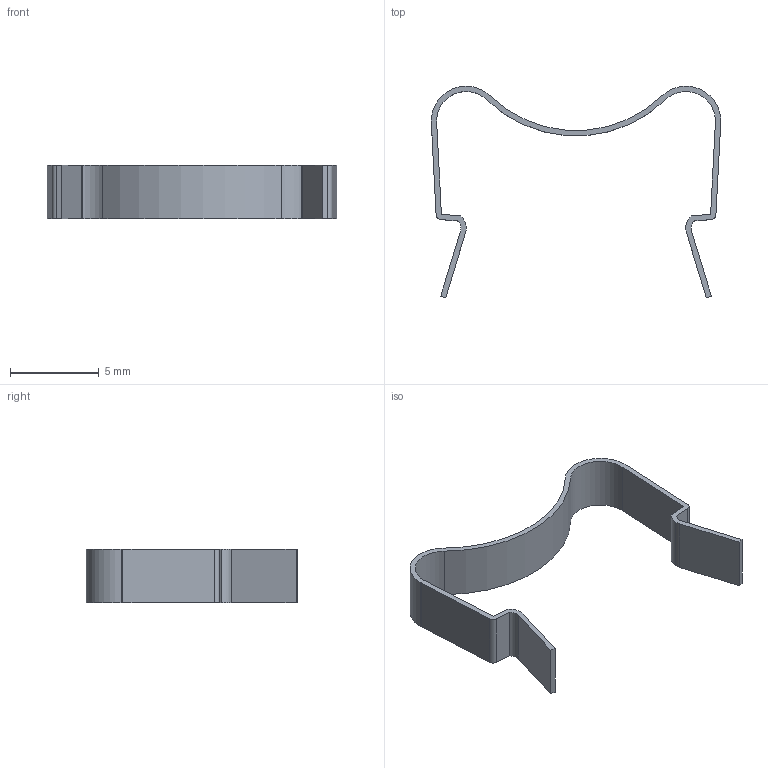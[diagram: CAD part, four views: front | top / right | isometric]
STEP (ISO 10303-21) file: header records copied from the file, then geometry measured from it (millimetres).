
FILE_DESCRIPTION (( 'STEP AP214' ), '1' );
FILE_NAME ('MC782.STEP', '2004-04-07T11:44:08', ( '' ), ( '' ), 'SwSTEP 2.0', 'SolidWorks 2002349', '' );
FILE_SCHEMA (( 'AUTOMOTIVE_DESIGN' ));
Length unit declared in the file: millimetre
Products named in the file (1): MC782
Bounding box: 16.28 x 11.89 x 3 mm (x, y, z)
Volume: 37.5 mm3; surface area: 276.6 mm2
Topology: 1 solids, 1 shells, 32 faces, 90 edges, 60 vertices
Faces by surface type: plane 16, cylinder 16
Entity records: 1069 total; most frequent: DIRECTION 188, CARTESIAN_POINT 183, ORIENTED_EDGE 180, EDGE_CURVE 90, AXIS2_PLACEMENT_3D 65, VERTEX_POINT 60, LINE 58, VECTOR 58
